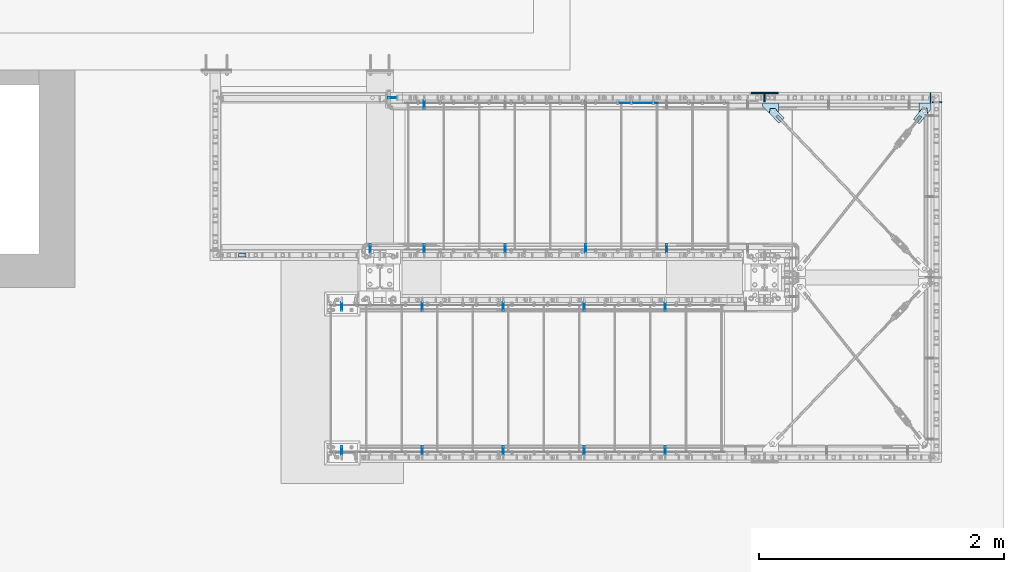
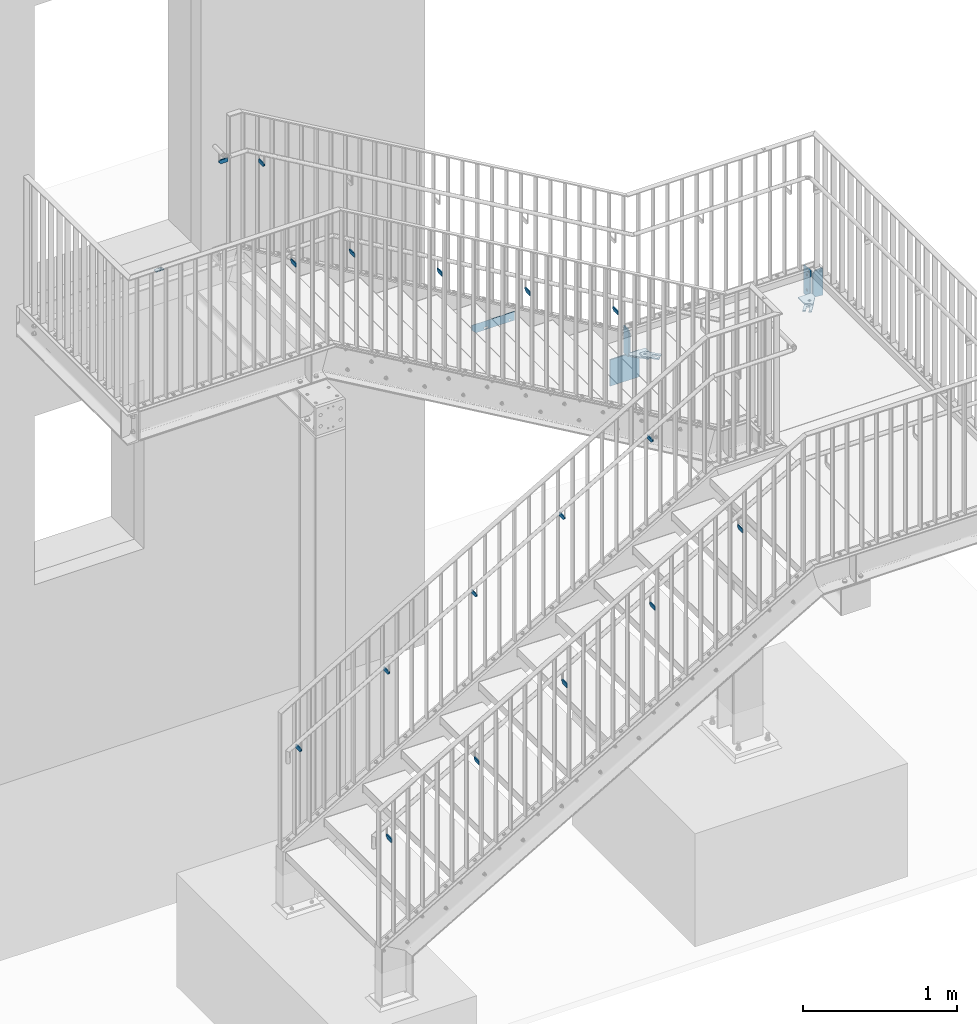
# One storey, part 26 of 145: 27 plates, 37 openings.
"""IFC2X3 building model written with IfcOpenShell, lengths in millimetres."""

import ifcopenshell
import ifcopenshell.guid

model = None  # the IFC model being written
_history = None  # IfcOwnerHistory: only IFC2X3 demands one
_inside = {}  # id of a spatial element -> (the spatial element, [elements in it])
_under = {}  # id of a project, library or spatial element -> (it, [spatial elements below it])
_declared = {}  # id of a project -> (the project, [libraries it declares])
_typed = {}  # id of a type object -> (the type object, [elements of that type])
_made_of = {}  # id of a material, layer set ... -> (it, [elements and type objects made of it])


def new_model(schema):
    """Start an empty IFC model of exactly this schema.

    Asked for "IFC4X3", IfcOpenShell would pick the latest addendum, in which some entities
    have other attributes; the version numbers below select the first issue.
    IFC2X3 requires an IfcOwnerHistory on every rooted entity: one is made here for all.
    """
    global model, _history
    if schema == "IFC4X3":
        model = ifcopenshell.file(schema_version=(4, 3, 0, 0))
    else:
        model = ifcopenshell.file(schema=schema)
    _inside.clear()
    _under.clear()
    _declared.clear()
    _typed.clear()
    _made_of.clear()
    _history = None
    if model.schema == "IFC2X3":
        org = make("IfcOrganization", Name="unknown")
        user = make(
            "IfcPersonAndOrganization",
            ThePerson=make("IfcPerson", FamilyName="unknown"),
            TheOrganization=org,
        )
        app = make(
            "IfcApplication",
            ApplicationDeveloper=org,
            Version="unknown",
            ApplicationFullName="unknown",
            ApplicationIdentifier="unknown",
        )
        _history = make(
            "IfcOwnerHistory",
            OwningUser=user,
            OwningApplication=app,
            ChangeAction="ADDED",
            CreationDate=0,
        )
    return model


def make(cls, **values):
    """One entity of the class cls with the attributes given. An attribute that is None is left unset."""
    return model.create_entity(
        cls, **{name: value for name, value in values.items() if value is not None}
    )


def entity(cls, *values):
    """Any entity or typed value of the class cls, its attributes in the order of the schema. None: left unset."""
    e = model.create_entity(cls)
    for i, value in enumerate(values):
        if value is not None:
            e[i] = value
    return e


def rooted(cls, **values):
    """An entity with a GlobalId (a new one), such as an element, a storey or a relation."""
    return make(cls, GlobalId=ifcopenshell.guid.new(), OwnerHistory=_history, **values)


def si_unit(unit_type, name, prefix=None):
    """IfcSIUnit, for example si_unit("LENGTHUNIT", "METRE", prefix="MILLI")."""
    return make("IfcSIUnit", UnitType=unit_type, Prefix=prefix, Name=name)


def converted_unit(unit_type, name, factor, base, dimensions=None, offset=None):
    """IfcConversionBasedUnit, such as the inch: factor (a typed value) times the base unit."""
    return make(
        "IfcConversionBasedUnit"
        if offset is None
        else "IfcConversionBasedUnitWithOffset",
        ConversionOffset=offset,
        Dimensions=None
        if dimensions is None
        else entity("IfcDimensionalExponents", *dimensions),
        UnitType=unit_type,
        Name=name,
        ConversionFactor=make(
            "IfcMeasureWithUnit", ValueComponent=factor, UnitComponent=base
        ),
    )


def assignment(units):
    """IfcUnitAssignment: the units of a project."""
    return None if units is None else make("IfcUnitAssignment", Units=units)


def point(xyz):
    """IfcCartesianPoint."""
    return None if xyz is None else make("IfcCartesianPoint", Coordinates=xyz)


def direction(xyz):
    """IfcDirection."""
    return None if xyz is None else make("IfcDirection", DirectionRatios=xyz)


def frame(location, z_axis=None, x_axis=None):
    """IfcAxis2Placement3D, a coordinate frame: its origin and axes. An axis left out is left unset."""
    return make(
        "IfcAxis2Placement3D",
        Location=point(location),
        Axis=direction(z_axis),
        RefDirection=direction(x_axis),
    )


def frame_2d(location, x_axis=None):
    """IfcAxis2Placement2D, a coordinate frame in the plane: its origin and x axis."""
    return make(
        "IfcAxis2Placement2D", Location=point(location), RefDirection=direction(x_axis)
    )


def origin():
    """The frame at (0, 0, 0) with its axes left unset."""
    return frame((0.0, 0.0, 0.0))


def origin_with_axes():
    """The frame at (0, 0, 0) with the z axis (0, 0, 1) and the x axis (1, 0, 0) written out."""
    return frame((0.0, 0.0, 0.0), z_axis=(0.0, 0.0, 1.0), x_axis=(1.0, 0.0, 0.0))


def origin_2d_with_axis():
    """The frame at (0, 0) in the plane with the x axis (1, 0) written out."""
    return frame_2d((0.0, 0.0), x_axis=(1.0, 0.0))


def place(relative_to, where):
    """IfcLocalPlacement: puts the frame where relative to a parent placement (None: the world)."""
    return make(
        "IfcLocalPlacement", PlacementRelTo=relative_to, RelativePlacement=where
    )


def context(
    kind, dimensions, precision=None, world=None, true_north=None, identifier=None
):
    """IfcGeometricRepresentationContext, for example the 3D "Model" context."""
    return make(
        "IfcGeometricRepresentationContext",
        ContextIdentifier=identifier,
        ContextType=kind,
        CoordinateSpaceDimension=dimensions,
        Precision=precision,
        WorldCoordinateSystem=world,
        TrueNorth=true_north,
    )


def project(units=None, contexts=None):
    """IfcProject with its units and contexts."""
    return rooted(
        "IfcProject",
        Name="project",
        RepresentationContexts=contexts,
        UnitsInContext=assignment(units),
    )


def spatial(cls, under=None, at=None, **own):
    """A site, building, storey or space (cls), placed at a placement, below another one or the project."""
    s = rooted(cls, ObjectPlacement=at, **own)
    if under is not None:
        _under.setdefault(under.id(), (under, []))[1].append(s)
    return s


def polyline(points):
    """IfcPolyline through the points."""
    return make("IfcPolyline", Points=[point(p) for p in points])


def circle_curve(where, radius):
    """IfcCircle in the frame where."""
    return make("IfcCircle", Position=where, Radius=radius)


def line_curve(start, along, magnitude):
    """IfcLine from a point along a vector."""
    return make(
        "IfcLine",
        Pnt=point(start),
        Dir=make("IfcVector", Orientation=direction(along), Magnitude=magnitude),
    )


def trimmed(basis, trim1, trim2, sense, master):
    """IfcTrimmedCurve: the piece of a basis curve between two trims."""
    return make(
        "IfcTrimmedCurve",
        BasisCurve=basis,
        Trim1=trim1,
        Trim2=trim2,
        SenseAgreement=sense,
        MasterRepresentation=master,
    )


def segment(curve, same_sense, transition):
    """IfcCompositeCurveSegment."""
    return make(
        "IfcCompositeCurveSegment",
        Transition=transition,
        SameSense=same_sense,
        ParentCurve=curve,
    )


def composite_curve(segments, self_intersect=None):
    """IfcCompositeCurve: segments joined end to end."""
    return make("IfcCompositeCurve", Segments=segments, SelfIntersect=self_intersect)


def profile(cls, at=None, kind="AREA", **sizes):
    """A parametric profile (cls). Its sizes go by their IFC names, for example OverallWidth=200.0."""
    return make(cls, ProfileType=kind, Position=at, **sizes)


def circle(**sizes):
    """IfcCircleProfileDef."""
    return profile("IfcCircleProfileDef", **sizes)


def outline(outer, holes=None, kind="AREA"):
    """IfcArbitraryClosedProfileDef: a profile drawn as a closed curve; with holes, ...WithVoids."""
    if holes is None:
        return make("IfcArbitraryClosedProfileDef", ProfileType=kind, OuterCurve=outer)
    return make(
        "IfcArbitraryProfileDefWithVoids",
        ProfileType=kind,
        OuterCurve=outer,
        InnerCurves=holes,
    )


def extrude(swept, where, along, depth):
    """IfcExtrudedAreaSolid: the profile swept, set in the frame where, extruded along a direction by depth."""
    return make(
        "IfcExtrudedAreaSolid",
        SweptArea=swept,
        Position=where,
        ExtrudedDirection=direction(along),
        Depth=depth,
    )


def shape(context_of_items, identifier, shape_type, items):
    """IfcShapeRepresentation: the items that make up one representation, for example the "Body"."""
    return make(
        "IfcShapeRepresentation",
        ContextOfItems=context_of_items,
        RepresentationIdentifier=identifier,
        RepresentationType=shape_type,
        Items=items,
    )


def material(Name=None, Category=None):
    """IfcMaterial."""
    return make("IfcMaterial", Name=Name, Category=Category)


def layer(
    of_material, thickness, ventilated=None, Name=None, Category=None, Priority=None
):
    """IfcMaterialLayer: one layer of a wall or slab, of a material (None: an air gap)."""
    return make(
        "IfcMaterialLayer",
        Material=of_material,
        LayerThickness=thickness,
        IsVentilated=ventilated,
        Name=Name,
        Category=Category,
        Priority=Priority,
    )


def layer_set(layers, Name=None):
    """IfcMaterialLayerSet."""
    return make("IfcMaterialLayerSet", MaterialLayers=layers, LayerSetName=Name)


def made_of(thing, what):
    """Note that an element or type object is made of a material, layer set ...; save() writes the relation."""
    if what is not None:
        _made_of.setdefault(what.id(), (what, []))[1].append(thing)
    return thing


def element(
    cls,
    number,
    at=None,
    inside=None,
    cuts=None,
    type_object=None,
    material=None,
    context=None,
    identifier="Body",
    shape_type=None,
    held_by="IfcProductDefinitionShape",
    body=None,
    shapes=None,
    **own,
):
    """One element of the class cls, such as IfcWall. Its Tag is "e" and its number.

    at: its placement. inside: the storey or other place that contains it. cuts: it is an
    opening in that element (IfcRelVoidsElement). A single representation is given by context,
    identifier, shape_type and body (its items); several are given by shapes. held_by: the class
    of the entity that holds the representations. save() writes the other relations.
    """
    e = rooted(cls, Tag="e%d" % number, ObjectPlacement=at, **own)
    if body is not None:
        shapes = [shape(context, identifier, shape_type, body)]
    if shapes is not None:
        e.Representation = make(held_by, Representations=shapes)
    if inside is not None:
        _inside.setdefault(inside.id(), (inside, []))[1].append(e)
    if cuts is not None:
        rooted(
            "IfcRelVoidsElement", RelatingBuildingElement=cuts, RelatedOpeningElement=e
        )
    if type_object is not None:
        _typed.setdefault(type_object.id(), (type_object, []))[1].append(e)
    return made_of(e, material)


def aggregate(whole, parts):
    """IfcRelAggregates: a whole, such as a stair, and the parts it consists of."""
    return rooted("IfcRelAggregates", RelatingObject=whole, RelatedObjects=parts)


def save(model, path):
    """Write the relations noted so far, then the file.

    IfcRelAggregates (storeys below a building ...), IfcRelContainedInSpatialStructure (elements
    in a storey), IfcRelDefinesByType, IfcRelAssociatesMaterial and IfcRelDeclares: one each for
    every whole, place, type object, material and project.
    """
    for whole, parts in _under.values():
        aggregate(whole, parts)
    for where, things in _inside.values():
        rooted(
            "IfcRelContainedInSpatialStructure",
            RelatedElements=things,
            RelatingStructure=where,
        )
    for kind, things in _typed.values():
        rooted("IfcRelDefinesByType", RelatedObjects=things, RelatingType=kind)
    for what, things in _made_of.values():
        rooted("IfcRelAssociatesMaterial", RelatedObjects=things, RelatingMaterial=what)
    for by, libraries in _declared.values():
        rooted("IfcRelDeclares", RelatingContext=by, RelatedDefinitions=libraries)
    model.write(path)


model = new_model("IFC2X3")

# Units and contexts
model_context = context("Model", 3, precision=1e-09, world=origin_with_axes())
ifc_project = project(units=[si_unit("LENGTHUNIT", "METRE", prefix="MILLI"), si_unit("AREAUNIT", "SQUARE_METRE"), si_unit("VOLUMEUNIT", "CUBIC_METRE"), converted_unit("PLANEANGLEUNIT", "DEGREE", entity("IfcPlaneAngleMeasure", 0.01745329), si_unit("PLANEANGLEUNIT", "RADIAN"), dimensions=[0, 0, 0, 0, 0, 0, 0])], contexts=[model_context])

# Site, building, storey
site_placement = place(None, origin_with_axes())
site = spatial("IfcSite", under=ifc_project, at=site_placement, Name="BZ1 Grund- und Mittelschule 85716 Unterschlei?heim", CompositionType="ELEMENT")
building_placement = place(site_placement, origin_with_axes())
building = spatial("IfcBuilding", under=site, at=building_placement, Name="Struktur 1", CompositionType="ELEMENT")
storey_placement = place(building_placement, origin_with_axes())
storey = spatial("IfcBuildingStorey", under=building, at=storey_placement, Name="Default Storey", CompositionType="ELEMENT", Elevation=0.0)

# Plate, opening
ifc_material = material(Name="S235JR")
ifc_layer_1 = layer(ifc_material, 8.0)
ifc_layer_set_1 = layer_set([ifc_layer_1], Name="S235JR")
plate_1_placement = place(None, frame((16762.545893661, -3108.002, 505.920612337), z_axis=(-1.0, 0.0, 0.0), x_axis=(0.0, -1.0, 0.0)))
plate_1 = element("IfcPlate", 1, at=plate_1_placement, inside=storey, material=ifc_layer_set_1, Name="-", ObjectType="-", context=model_context, shape_type="SweptSolid", body=[
    extrude(outline(polyline([(-34.5, -15.0), (34.5, -15.0), (34.5, 15.0), (-34.5, 15.0), (-34.5, -15.0)])), origin_with_axes(), (0.0, 0.0, 1.0), 8.0),
])
opening_1_placement = place(plate_1_placement, frame((0.0, 0.0, -0.01), z_axis=(0.0, 0.0, 1.0), x_axis=(1.0, 0.0, 0.0)))
element("IfcOpeningElement", 2, at=opening_1_placement, cuts=plate_1, ObjectType="Opening", context=model_context, shape_type="SweptSolid", body=[
    extrude(outline(polyline([(-34.5, -15.0), (-19.5, -15.0), (-34.5, 0.0), (-34.5, -15.0)])), origin(), (0.0, 0.0, 1.0), 8.02),
])

plate_2_placement = place(None, frame((16762.545893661, -1932.002, 505.920612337), z_axis=(1.0, 0.0, 0.0), x_axis=(0.0, 1.0, 0.0)))
plate_2 = element("IfcPlate", 3, at=plate_2_placement, inside=storey, material=ifc_layer_set_1, Name="-", ObjectType="-", context=model_context, shape_type="SweptSolid", body=[
    extrude(outline(polyline([(-34.5, -15.0), (34.5, -15.0), (34.5, 15.0), (-34.5, 15.0), (-34.5, -15.0)])), origin_with_axes(), (0.0, 0.0, -1.0), 8.0),
])
opening_2_placement = place(plate_2_placement, frame((-34.5, -15.0, 0.01), z_axis=(0.0, 0.0, 1.0), x_axis=(1.0, 0.0, 0.0)))
element("IfcOpeningElement", 4, at=opening_2_placement, cuts=plate_2, ObjectType="Opening", context=model_context, shape_type="SweptSolid", body=[
    extrude(outline(polyline([(0.0, 0.0), (15.0, 0.0), (0.0, 15.0), (0.0, 0.0)])), origin(), (0.0, 0.0, -1.0), 8.02),
])

plate_3_placement = place(None, frame((17422.545893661, -3108.002, 889.713715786), z_axis=(-1.0, 0.0, 0.0), x_axis=(0.0, -1.0, 0.0)))
plate_3 = element("IfcPlate", 5, at=plate_3_placement, inside=storey, material=ifc_layer_set_1, Name="-", ObjectType="-", context=model_context, shape_type="SweptSolid", body=[
    extrude(outline(polyline([(-34.5, -15.0), (34.5, -15.0), (34.5, 15.0), (-34.5, 15.0), (-34.5, -15.0)])), origin_with_axes(), (0.0, 0.0, 1.0), 8.0),
])
opening_3_placement = place(plate_3_placement, frame((0.0, 0.0, -0.01), z_axis=(0.0, 0.0, 1.0), x_axis=(1.0, 0.0, 0.0)))
element("IfcOpeningElement", 6, at=opening_3_placement, cuts=plate_3, ObjectType="Opening", context=model_context, shape_type="SweptSolid", body=[
    extrude(outline(polyline([(-34.5, -15.0), (-19.5, -15.0), (-34.5, 0.0), (-34.5, -15.0)])), origin(), (0.0, 0.0, 1.0), 8.02),
])

plate_4_placement = place(None, frame((17422.545893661, -1932.002, 889.713715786), z_axis=(1.0, 0.0, 0.0), x_axis=(0.0, 1.0, 0.0)))
plate_4 = element("IfcPlate", 7, at=plate_4_placement, inside=storey, material=ifc_layer_set_1, Name="-", ObjectType="-", context=model_context, shape_type="SweptSolid", body=[
    extrude(outline(polyline([(-34.5, -15.0), (34.5, -15.0), (34.5, 15.0), (-34.5, 15.0), (-34.5, -15.0)])), origin_with_axes(), (0.0, 0.0, -1.0), 8.0),
])
opening_4_placement = place(plate_4_placement, frame((-34.5, -15.0, 0.01), z_axis=(0.0, 0.0, 1.0), x_axis=(1.0, 0.0, 0.0)))
element("IfcOpeningElement", 8, at=opening_4_placement, cuts=plate_4, ObjectType="Opening", context=model_context, shape_type="SweptSolid", body=[
    extrude(outline(polyline([(0.0, 0.0), (15.0, 0.0), (0.0, 15.0), (0.0, 0.0)])), origin(), (0.0, 0.0, -1.0), 8.02),
])

plate_5_placement = place(None, frame((18082.545893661, -1932.002, 1273.506819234), z_axis=(1.0, 0.0, 0.0), x_axis=(0.0, 1.0, 0.0)))
plate_5 = element("IfcPlate", 9, at=plate_5_placement, inside=storey, material=ifc_layer_set_1, Name="-", ObjectType="-", context=model_context, shape_type="SweptSolid", body=[
    extrude(outline(polyline([(-34.5, -15.0), (34.5, -15.0), (34.5, 15.0), (-34.5, 15.0), (-34.5, -15.0)])), origin_with_axes(), (0.0, 0.0, -1.0), 8.0),
])
opening_5_placement = place(plate_5_placement, frame((-34.5, -15.0, 0.01), z_axis=(0.0, 0.0, 1.0), x_axis=(1.0, 0.0, 0.0)))
element("IfcOpeningElement", 10, at=opening_5_placement, cuts=plate_5, ObjectType="Opening", context=model_context, shape_type="SweptSolid", body=[
    extrude(outline(polyline([(0.0, 0.0), (15.0, 0.0), (0.0, 15.0), (0.0, 0.0)])), origin(), (0.0, 0.0, -1.0), 8.02),
])

plate_6_placement = place(None, frame((18082.545893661, -3108.002, 1273.506819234), z_axis=(-1.0, 0.0, 0.0), x_axis=(0.0, -1.0, 0.0)))
plate_6 = element("IfcPlate", 11, at=plate_6_placement, inside=storey, material=ifc_layer_set_1, Name="-", ObjectType="-", context=model_context, shape_type="SweptSolid", body=[
    extrude(outline(polyline([(-34.5, -15.0), (34.5, -15.0), (34.5, 15.0), (-34.5, 15.0), (-34.5, -15.0)])), origin_with_axes(), (0.0, 0.0, 1.0), 8.0),
])
opening_6_placement = place(plate_6_placement, frame((0.0, 0.0, -0.01), z_axis=(0.0, 0.0, 1.0), x_axis=(1.0, 0.0, 0.0)))
element("IfcOpeningElement", 12, at=opening_6_placement, cuts=plate_6, ObjectType="Opening", context=model_context, shape_type="SweptSolid", body=[
    extrude(outline(polyline([(-34.5, -15.0), (-19.5, -15.0), (-34.5, 0.0), (-34.5, -15.0)])), origin(), (0.0, 0.0, 1.0), 8.02),
])

plate_7_placement = place(None, frame((18742.545893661, -3108.002, 1657.299922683), z_axis=(-1.0, 0.0, 0.0), x_axis=(0.0, -1.0, 0.0)))
plate_7 = element("IfcPlate", 13, at=plate_7_placement, inside=storey, material=ifc_layer_set_1, Name="-", ObjectType="-", context=model_context, shape_type="SweptSolid", body=[
    extrude(outline(polyline([(-34.5, -15.0), (34.5, -15.0), (34.5, 15.0), (-34.5, 15.0), (-34.5, -15.0)])), origin_with_axes(), (0.0, 0.0, 1.0), 8.0),
])
opening_7_placement = place(plate_7_placement, frame((0.0, 0.0, -0.01), z_axis=(0.0, 0.0, 1.0), x_axis=(1.0, 0.0, 0.0)))
element("IfcOpeningElement", 14, at=opening_7_placement, cuts=plate_7, ObjectType="Opening", context=model_context, shape_type="SweptSolid", body=[
    extrude(outline(polyline([(-34.5, -15.0), (-19.5, -15.0), (-34.5, 0.0), (-34.5, -15.0)])), origin(), (0.0, 0.0, 1.0), 8.02),
])

plate_8_placement = place(None, frame((18742.545893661, -1932.002, 1657.299922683), z_axis=(1.0, 0.0, 0.0), x_axis=(0.0, 1.0, 0.0)))
plate_8 = element("IfcPlate", 15, at=plate_8_placement, inside=storey, material=ifc_layer_set_1, Name="-", ObjectType="-", context=model_context, shape_type="SweptSolid", body=[
    extrude(outline(polyline([(-34.5, -15.0), (34.5, -15.0), (34.5, 15.0), (-34.5, 15.0), (-34.5, -15.0)])), origin_with_axes(), (0.0, 0.0, -1.0), 8.0),
])
opening_8_placement = place(plate_8_placement, frame((-34.5, -15.0, 0.01), z_axis=(0.0, 0.0, 1.0), x_axis=(1.0, 0.0, 0.0)))
element("IfcOpeningElement", 16, at=opening_8_placement, cuts=plate_8, ObjectType="Opening", context=model_context, shape_type="SweptSolid", body=[
    extrude(outline(polyline([(0.0, 0.0), (15.0, 0.0), (0.0, 15.0), (0.0, 0.0)])), origin(), (0.0, 0.0, -1.0), 8.02),
])

plate_9_placement = place(None, frame((19402.54589366, -1932.002, 2041.093026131), z_axis=(1.0, 0.0, 0.0), x_axis=(0.0, 1.0, 0.0)))
plate_9 = element("IfcPlate", 17, at=plate_9_placement, inside=storey, material=ifc_layer_set_1, Name="-", ObjectType="-", context=model_context, shape_type="SweptSolid", body=[
    extrude(outline(polyline([(-34.5, -15.0), (34.5, -15.0), (34.5, 15.0), (-34.5, 15.0), (-34.5, -15.0)])), origin_with_axes(), (0.0, 0.0, -1.0), 8.0),
])
opening_9_placement = place(plate_9_placement, frame((-34.5, -15.0, 0.01), z_axis=(0.0, 0.0, 1.0), x_axis=(1.0, 0.0, 0.0)))
element("IfcOpeningElement", 18, at=opening_9_placement, cuts=plate_9, ObjectType="Opening", context=model_context, shape_type="SweptSolid", body=[
    extrude(outline(polyline([(0.0, 0.0), (15.0, 0.0), (0.0, 15.0), (0.0, 0.0)])), origin(), (0.0, 0.0, -1.0), 8.02),
])

plate_10_placement = place(None, frame((19402.54589366, -3108.002, 2041.093026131), z_axis=(-1.0, 0.0, 0.0), x_axis=(0.0, -1.0, 0.0)))
plate_10 = element("IfcPlate", 19, at=plate_10_placement, inside=storey, material=ifc_layer_set_1, Name="-", ObjectType="-", context=model_context, shape_type="SweptSolid", body=[
    extrude(outline(polyline([(-34.5, -15.0), (34.5, -15.0), (34.5, 15.0), (-34.5, 15.0), (-34.5, -15.0)])), origin_with_axes(), (0.0, 0.0, 1.0), 8.0),
])
opening_10_placement = place(plate_10_placement, frame((0.0, 0.0, -0.01), z_axis=(0.0, 0.0, 1.0), x_axis=(1.0, 0.0, 0.0)))
element("IfcOpeningElement", 20, at=opening_10_placement, cuts=plate_10, ObjectType="Opening", context=model_context, shape_type="SweptSolid", body=[
    extrude(outline(polyline([(-34.5, -15.0), (-19.5, -15.0), (-34.5, 0.0), (-34.5, -15.0)])), origin(), (0.0, 0.0, 1.0), 8.02),
])

plate_11_placement = place(None, frame((17429.141490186, -282.006106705, 3919.353213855), z_axis=(1.0, 0.0, 0.0), x_axis=(0.0, 1.0, 0.0)))
plate_11 = element("IfcPlate", 21, at=plate_11_placement, inside=storey, material=ifc_layer_set_1, Name="-", ObjectType="-", context=model_context, shape_type="SweptSolid", body=[
    extrude(outline(polyline([(-34.5, -15.0), (34.5, -15.0), (34.5, 15.0), (-34.5, 15.0), (-34.5, -15.0)])), origin_with_axes(), (0.0, 0.0, 1.0), 8.0),
])
opening_11_placement = place(plate_11_placement, frame((0.0, 0.0, -0.01), z_axis=(0.0, 0.0, 1.0), x_axis=(1.0, 0.0, 0.0)))
element("IfcOpeningElement", 22, at=opening_11_placement, cuts=plate_11, ObjectType="Opening", context=model_context, shape_type="SweptSolid", body=[
    extrude(outline(polyline([(-34.5, -15.0), (-19.5, -15.0), (-34.5, 0.0), (-34.5, -15.0)])), origin(), (0.0, 0.0, 1.0), 8.02),
])

plate_12_placement = place(None, frame((17429.141490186, -1458.006106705, 3919.353213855), z_axis=(-1.0, 0.0, 0.0), x_axis=(0.0, -1.0, 0.0)))
plate_12 = element("IfcPlate", 23, at=plate_12_placement, inside=storey, material=ifc_layer_set_1, Name="-", ObjectType="-", context=model_context, shape_type="SweptSolid", body=[
    extrude(outline(polyline([(-34.5, -15.0), (34.5, -15.0), (34.5, 15.0), (-34.5, 15.0), (-34.5, -15.0)])), origin_with_axes(), (0.0, 0.0, -1.0), 8.0),
])
opening_12_placement = place(plate_12_placement, frame((-34.5, -15.0, 0.01), z_axis=(0.0, 0.0, 1.0), x_axis=(1.0, 0.0, 0.0)))
element("IfcOpeningElement", 24, at=opening_12_placement, cuts=plate_12, ObjectType="Opening", context=model_context, shape_type="SweptSolid", body=[
    extrude(outline(polyline([(0.0, 0.0), (15.0, 0.0), (0.0, 15.0), (0.0, 0.0)])), origin(), (0.0, 0.0, -1.0), 8.02),
])

plate_13_placement = place(None, frame((18089.141490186, -1458.006106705, 3535.560110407), z_axis=(-1.0, 0.0, 0.0), x_axis=(0.0, -1.0, 0.0)))
plate_13 = element("IfcPlate", 25, at=plate_13_placement, inside=storey, material=ifc_layer_set_1, Name="-", ObjectType="-", context=model_context, shape_type="SweptSolid", body=[
    extrude(outline(polyline([(-34.5, -15.0), (34.5, -15.0), (34.5, 15.0), (-34.5, 15.0), (-34.5, -15.0)])), origin_with_axes(), (0.0, 0.0, -1.0), 8.0),
])
opening_13_placement = place(plate_13_placement, frame((-34.5, -15.0, 0.01), z_axis=(0.0, 0.0, 1.0), x_axis=(1.0, 0.0, 0.0)))
element("IfcOpeningElement", 26, at=opening_13_placement, cuts=plate_13, ObjectType="Opening", context=model_context, shape_type="SweptSolid", body=[
    extrude(outline(polyline([(0.0, 0.0), (15.0, 0.0), (0.0, 15.0), (0.0, 0.0)])), origin(), (0.0, 0.0, -1.0), 8.02),
])

plate_14_placement = place(None, frame((18749.141490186, -1458.006106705, 3151.767006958), z_axis=(-1.0, 0.0, 0.0), x_axis=(0.0, -1.0, 0.0)))
plate_14 = element("IfcPlate", 27, at=plate_14_placement, inside=storey, material=ifc_layer_set_1, Name="-", ObjectType="-", context=model_context, shape_type="SweptSolid", body=[
    extrude(outline(polyline([(-34.5, -15.0), (34.5, -15.0), (34.5, 15.0), (-34.5, 15.0), (-34.5, -15.0)])), origin_with_axes(), (0.0, 0.0, -1.0), 8.0),
])
opening_14_placement = place(plate_14_placement, frame((-34.5, -15.0, 0.01), z_axis=(0.0, 0.0, 1.0), x_axis=(1.0, 0.0, 0.0)))
element("IfcOpeningElement", 28, at=opening_14_placement, cuts=plate_14, ObjectType="Opening", context=model_context, shape_type="SweptSolid", body=[
    extrude(outline(polyline([(0.0, 0.0), (15.0, 0.0), (0.0, 15.0), (0.0, 0.0)])), origin(), (0.0, 0.0, -1.0), 8.02),
])

plate_15_placement = place(None, frame((19409.141490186, -1458.006106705, 2767.97390351), z_axis=(-1.0, 0.0, 0.0), x_axis=(0.0, -1.0, 0.0)))
plate_15 = element("IfcPlate", 29, at=plate_15_placement, inside=storey, material=ifc_layer_set_1, Name="-", ObjectType="-", context=model_context, shape_type="SweptSolid", body=[
    extrude(outline(polyline([(-34.5, -15.0), (34.5, -15.0), (34.5, 15.0), (-34.5, 15.0), (-34.5, -15.0)])), origin_with_axes(), (0.0, 0.0, -1.0), 8.0),
])
opening_15_placement = place(plate_15_placement, frame((-34.5, -15.0, 0.01), z_axis=(0.0, 0.0, 1.0), x_axis=(1.0, 0.0, 0.0)))
element("IfcOpeningElement", 30, at=opening_15_placement, cuts=plate_15, ObjectType="Opening", context=model_context, shape_type="SweptSolid", body=[
    extrude(outline(polyline([(0.0, 0.0), (15.0, 0.0), (0.0, 15.0), (0.0, 0.0)])), origin(), (0.0, 0.0, -1.0), 8.02),
])

plate_16_placement = place(None, frame((16997.141490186, -1458.002, 3995.0), z_axis=(-1.0, 0.0, 0.0), x_axis=(0.0, -1.0, 0.0)))
plate_16 = element("IfcPlate", 31, at=plate_16_placement, inside=storey, material=ifc_layer_set_1, Name="-", ObjectType="-", context=model_context, shape_type="SweptSolid", body=[
    extrude(outline(polyline([(-34.5, -15.0), (34.5, -15.0), (34.5, 15.0), (-34.5, 15.0), (-34.5, -15.0)])), origin_with_axes(), (0.0, 0.0, 1.0), 8.0),
])
opening_16_placement = place(plate_16_placement, frame((0.0, 0.0, -0.01), z_axis=(0.0, 0.0, 1.0), x_axis=(1.0, 0.0, 0.0)))
element("IfcOpeningElement", 32, at=opening_16_placement, cuts=plate_16, ObjectType="Opening", context=model_context, shape_type="SweptSolid", body=[
    extrude(outline(polyline([(-34.5, -15.0), (-19.5, -15.0), (-34.5, 0.0), (-34.5, -15.0)])), origin(), (0.0, 0.0, 1.0), 8.02),
])

plate_17_placement = place(None, frame((17174.641490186, -223.502, 3995.0), z_axis=(0.0, -1.0, 0.0), x_axis=(1.0, 0.0, 0.0)))
plate_17 = element("IfcPlate", 33, at=plate_17_placement, inside=storey, material=ifc_layer_set_1, Name="-", ObjectType="-", context=model_context, shape_type="SweptSolid", body=[
    extrude(outline(polyline([(-34.5, -15.0), (34.5, -15.0), (34.5, 15.0), (-34.5, 15.0), (-34.5, -15.0)])), origin_with_axes(), (0.0, 0.0, 1.0), 8.0),
])
opening_17_placement = place(plate_17_placement, frame((0.0, 0.0, -0.01), z_axis=(0.0, 0.0, 1.0), x_axis=(1.0, 0.0, 0.0)))
element("IfcOpeningElement", 34, at=opening_17_placement, cuts=plate_17, ObjectType="Opening", context=model_context, shape_type="SweptSolid", body=[
    extrude(outline(polyline([(-34.5, -15.0), (-19.5, -15.0), (-34.5, 0.0), (-34.5, -15.0)])), origin(), (0.0, 0.0, 1.0), 8.02),
])

# Plate, openings
ifc_layer_2 = layer(ifc_material, 10.0)
ifc_layer_set_2 = layer_set([ifc_layer_2], Name="S235JR")
plate_18_placement = place(None, frame((21570.84472732, -227.502, 1493.6363644), z_axis=(-1.0, 0.0, 0.0), x_axis=(0.0, -1.0, 0.0)))
plate_18 = element("IfcPlate", 35, at=plate_18_placement, inside=storey, material=ifc_layer_set_2, Name="-", ObjectType="-", context=model_context, shape_type="SweptSolid", body=[
    extrude(outline(polyline([(-42.5, -113.0), (42.5, -113.0), (42.5, 113.0), (-42.5, 113.0), (-42.5, -113.0)])), origin_with_axes(), (0.0, 0.0, 1.0), 10.0),
])
opening_18_placement = place(plate_18_placement, frame((20.0, 94.0, -0.5), z_axis=(0.0, 0.0, 1.0), x_axis=(0.0, 1.0, 0.0)))
element("IfcOpeningElement", 36, at=opening_18_placement, cuts=plate_18, ObjectType="Opening", context=model_context, shape_type="SweptSolid", body=[
    extrude(circle(Radius=6.001, at=origin_2d_with_axis()), origin(), (0.0, 0.0, 1.0), 11.0),
])
opening_19_placement = place(plate_18_placement, frame((20.0, -94.0, -0.5), z_axis=(0.0, 0.0, 1.0), x_axis=(0.0, 1.0, 0.0)))
element("IfcOpeningElement", 37, at=opening_19_placement, cuts=plate_18, ObjectType="Opening", context=model_context, shape_type="SweptSolid", body=[
    extrude(circle(Radius=6.001, at=origin_2d_with_axis()), origin(), (0.0, 0.0, 1.0), 11.0),
])
opening_20_placement = place(plate_18_placement, frame((0.0, 0.0, -0.5), z_axis=(0.0, 0.0, 1.0), x_axis=(1.0, 0.0, 0.0)))
element("IfcOpeningElement", 38, at=opening_20_placement, cuts=plate_18, ObjectType="Opening", context=model_context, shape_type="SweptSolid", body=[
    extrude(circle(Radius=9.001, at=frame_2d((0.0, 60.0), x_axis=(1.0, 0.0))), origin(), (0.0, 0.0, 1.0), 11.0),
])
opening_21_placement = place(plate_18_placement, frame((0.0, 0.0, -0.5), z_axis=(0.0, 0.0, 1.0), x_axis=(1.0, 0.0, 0.0)))
element("IfcOpeningElement", 39, at=opening_21_placement, cuts=plate_18, ObjectType="Opening", context=model_context, shape_type="SweptSolid", body=[
    extrude(circle(Radius=9.001, at=frame_2d((0.0, -60.0), x_axis=(1.0, 0.0))), origin(), (0.0, 0.0, 1.0), 11.0),
])

plate_19_placement = place(None, frame((21655.34472732, -270.002, 1384.781098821), z_axis=(0.0, 1.0, 0.0), x_axis=(-0.996815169, 0.0, 0.079746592)))
plate_19 = element("IfcPlate", 40, at=plate_19_placement, inside=storey, material=ifc_layer_set_2, Name="Stiffener#1", ObjectType="Stiffener#1", context=model_context, shape_type="SweptSolid", body=[
    extrude(outline(polyline([(0.0, 0.0), (75.239625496, 0.0), (91.644322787, 205.05517107), (17.361672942, 217.017159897), (0.0, 0.0)])), origin_with_axes(), (0.0, 0.0, 1.0), 10.0),
])
opening_22_placement = place(plate_19_placement, frame((0.0, 0.0, -0.01), z_axis=(0.0, 0.0, 1.0), x_axis=(1.0, 0.0, 0.0)))
element("IfcOpeningElement", 41, at=opening_22_placement, cuts=plate_19, ObjectType="Opening", context=model_context, shape_type="SweptSolid", body=[
    extrude(outline(composite_curve([segment(trimmed(line_curve((91.644322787, 205.05517107), (-0.987280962, 0.158985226), 15.0), [point((91.644322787, 205.05517107))], [point((76.835108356, 207.439949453))], True, "CARTESIAN"), True, "CONTINUOUS"), segment(trimmed(circle_curve(frame_2d((91.644322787, 205.05517107), x_axis=(1.0, 0.0)), 15.0), [point((76.835108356, 207.439949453))], [point((90.448123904, 190.102943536))], True, "CARTESIAN"), True, "CONTINUOUS"), segment(trimmed(line_curve((90.448123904, 190.102943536), (0.079746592, 0.996815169), 15.0), [point((90.448123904, 190.102943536))], [point((91.644322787, 205.05517107))], True, "CARTESIAN"), True, "CONTINUOUS")], self_intersect=False)), origin(), (0.0, 0.0, 1.0), 10.02),
])
opening_23_placement = place(plate_19_placement, frame((0.0, 0.0, -0.01), z_axis=(0.0, 0.0, 1.0), x_axis=(1.0, 0.0, 0.0)))
element("IfcOpeningElement", 42, at=opening_23_placement, cuts=plate_19, ObjectType="Opening", context=model_context, shape_type="SweptSolid", body=[
    extrude(outline(composite_curve([segment(trimmed(line_curve((75.239625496, 0.0), (0.079746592, 0.996815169), 15.0), [point((75.239625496, 0.0))], [point((76.435824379, 14.952227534))], True, "CARTESIAN"), True, "CONTINUOUS"), segment(trimmed(circle_curve(frame_2d((75.239625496, 0.0), x_axis=(1.0, 0.0)), 15.0), [point((76.435824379, 14.952227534))], [point((60.239625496, 0.0))], True, "CARTESIAN"), True, "CONTINUOUS"), segment(trimmed(line_curve((60.239625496, 0.0), (1.0, 0.0), 15.0), [point((60.239625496, 0.0))], [point((75.239625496, 0.0))], True, "CARTESIAN"), True, "CONTINUOUS")], self_intersect=False)), origin(), (0.0, 0.0, 1.0), 10.02),
])

# Plate, opening
ifc_layer_3 = layer(ifc_material, 5.0)
ifc_layer_set_3 = layer_set([ifc_layer_3], Name="S235JR")
plate_20_placement = place(None, frame((15949.141490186, -1512.502, 4337.0000004), z_axis=(0.0, 0.0, 1.0), x_axis=(0.0, -1.0, 0.0)))
plate_20 = element("IfcPlate", 43, at=plate_20_placement, inside=storey, material=ifc_layer_set_3, Name="-", ObjectType="-", context=model_context, shape_type="SweptSolid", body=[
    extrude(outline(polyline([(-15.0, -30.0), (15.0, -30.0), (15.0, 30.0), (-15.0, 30.0), (-15.0, -30.0)])), origin_with_axes(), (0.0, 0.0, 1.0), 5.0),
])
opening_24_placement = place(plate_20_placement, frame((0.0, 15.0, -0.5), z_axis=(0.0, 0.0, 1.0), x_axis=(1.0, 0.0, 0.0)))
element("IfcOpeningElement", 44, at=opening_24_placement, cuts=plate_20, ObjectType="Opening", context=model_context, shape_type="SweptSolid", body=[
    extrude(circle(Radius=4.001, at=origin_2d_with_axis()), origin(), (0.0, 0.0, 1.0), 6.0),
])

# Plate, openings
plate_21_placement = place(None, frame((20372.11487547, -394.513116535, 1433.6363644), z_axis=(0.0, 0.0, 1.0), x_axis=(-0.692926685, 0.721008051, 0.0)))
plate_21 = element("IfcPlate", 45, at=plate_21_placement, inside=storey, material=ifc_layer_set_2, Name="-", ObjectType="-", context=model_context, shape_type="SweptSolid", body=[
    extrude(outline(polyline([(0.0, 0.0), (140.0, 0.0), (140.0, 60.0), (1e-09, 60.000000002), (1e-09, 40.5), (55.000000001, 40.499999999), (55.0, 19.499999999), (0.0, 19.5), (0.0, 0.0)])), origin_with_axes(), (0.0, 0.0, 1.0), 10.0),
])
opening_25_placement = place(plate_21_placement, frame((0.0, 0.0, -0.01), z_axis=(0.0, 0.0, 1.0), x_axis=(1.0, 0.0, 0.0)))
element("IfcOpeningElement", 46, at=opening_25_placement, cuts=plate_21, ObjectType="Opening", context=model_context, shape_type="SweptSolid", body=[
    extrude(outline(composite_curve([segment(trimmed(line_curve((140.0, 0.0), (0.0, 1.0), 30.0), [point((140.0, 0.0))], [point((140.0, 30.0))], True, "CARTESIAN"), True, "CONTINUOUS"), segment(trimmed(circle_curve(frame_2d((110.0, 30.0), x_axis=(-1.0, 0.0)), 30.0), [point((140.0, 30.0))], [point((110.0, 0.0))], False, "CARTESIAN"), True, "CONTINUOUS"), segment(trimmed(line_curve((110.0, 0.0), (1.0, 0.0), 30.0), [point((110.0, 0.0))], [point((140.0, 0.0))], True, "CARTESIAN"), True, "CONTINUOUS")], self_intersect=False)), origin(), (0.0, 0.0, 1.0), 10.02),
])
opening_26_placement = place(plate_21_placement, frame((0.0, 0.0, -0.01), z_axis=(0.0, 0.0, 1.0), x_axis=(1.0, 0.0, 0.0)))
element("IfcOpeningElement", 47, at=opening_26_placement, cuts=plate_21, ObjectType="Opening", context=model_context, shape_type="SweptSolid", body=[
    extrude(outline(composite_curve([segment(trimmed(line_curve((140.0, 60.0), (-1.0, 0.0), 30.0), [point((140.0, 60.0))], [point((110.0, 60.0))], True, "CARTESIAN"), True, "CONTINUOUS"), segment(trimmed(circle_curve(frame_2d((110.0, 30.0), x_axis=(-1.0, 0.0)), 30.0), [point((110.0, 60.0))], [point((140.0, 30.0))], False, "CARTESIAN"), True, "CONTINUOUS"), segment(trimmed(line_curve((140.0, 30.0), (0.0, 1.0), 30.0), [point((140.0, 30.0))], [point((140.0, 60.0))], True, "CARTESIAN"), True, "CONTINUOUS")], self_intersect=False)), origin(), (0.0, 0.0, 1.0), 10.02),
])
opening_27_placement = place(plate_21_placement, frame((105.0, 29.999999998, -0.5), z_axis=(0.0, 0.0, 1.0), x_axis=(-1.0, 0.0, 0.0)))
element("IfcOpeningElement", 48, at=opening_27_placement, cuts=plate_21, ObjectType="Opening", context=model_context, shape_type="SweptSolid", body=[
    extrude(circle(Radius=9.001, at=origin_2d_with_axis()), origin(), (0.0, 0.0, 1.0), 11.0),
])

# Plate, opening
plate_22_placement = place(None, frame((20202.757632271, -375.264143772, 1433.6363644), z_axis=(0.0, 0.0, -1.0), x_axis=(0.132269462, 0.991213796, 0.0)))
plate_22 = element("IfcPlate", 49, at=plate_22_placement, inside=storey, material=ifc_layer_set_2, Name="-", ObjectType="-", context=model_context, shape_type="SweptSolid", body=[
    extrude(outline(polyline([(77.988714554, -19.635673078), (103.127337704, -22.990218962), (120.322367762, 105.867574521), (46.932350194, 115.660878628), (0.0, 78.279673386), (77.988714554, -19.635673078)])), origin_with_axes(), (0.0, 0.0, 1.0), 10.0),
])
opening_28_placement = place(plate_22_placement, frame((45.271878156, 69.593071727, 10.5), z_axis=(0.0, 0.0, -1.0), x_axis=(-0.623020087, 0.782205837, 0.0)))
element("IfcOpeningElement", 50, at=opening_28_placement, cuts=plate_22, ObjectType="Opening", context=model_context, shape_type="SweptSolid", body=[
    extrude(circle(Radius=9.001, at=origin_2d_with_axis()), origin(), (0.0, 0.0, 1.0), 11.0),
])

# Plate
plate_23_placement = place(None, frame((20210.84472732, -195.002, 1263.636364), z_axis=(0.0, -1.0, 0.0), x_axis=(1.0, 0.0, 0.0)))
element("IfcPlate", 51, at=plate_23_placement, inside=storey, material=ifc_layer_set_2, Name="-", ObjectType="-", context=model_context, shape_type="SweptSolid", body=[
    extrude(outline(polyline([(-110.0, -105.0), (110.0, -105.0), (110.0, 105.0), (-110.0, 105.0), (-110.0, -105.0)])), origin_with_axes(), (0.0, 0.0, -1.0), 10.0),
])

# Plate, openings
plate_24_placement = place(None, frame((20215.84472732, -185.502, 1384.781098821), z_axis=(-1.0, 0.0, 0.0), x_axis=(0.0, -0.996815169, 0.079746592)))
plate_24 = element("IfcPlate", 52, at=plate_24_placement, inside=storey, material=ifc_layer_set_2, Name="Stiffener#1", ObjectType="Stiffener#1", context=model_context, shape_type="SweptSolid", body=[
    extrude(outline(polyline([(0.0, 0.0), (75.239625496, 0.0), (91.644322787, 205.05517107), (17.361672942, 217.017159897), (0.0, 0.0)])), origin_with_axes(), (0.0, 0.0, 1.0), 10.0),
])
opening_29_placement = place(plate_24_placement, frame((0.0, 0.0, -0.01), z_axis=(0.0, 0.0, 1.0), x_axis=(1.0, 0.0, 0.0)))
element("IfcOpeningElement", 53, at=opening_29_placement, cuts=plate_24, ObjectType="Opening", context=model_context, shape_type="SweptSolid", body=[
    extrude(outline(composite_curve([segment(trimmed(line_curve((91.644322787, 205.05517107), (-0.987280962, 0.158985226), 15.0), [point((91.644322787, 205.05517107))], [point((76.835108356, 207.439949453))], True, "CARTESIAN"), True, "CONTINUOUS"), segment(trimmed(circle_curve(frame_2d((91.644322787, 205.05517107), x_axis=(1.0, 0.0)), 15.0), [point((76.835108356, 207.439949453))], [point((90.448123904, 190.102943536))], True, "CARTESIAN"), True, "CONTINUOUS"), segment(trimmed(line_curve((90.448123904, 190.102943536), (0.079746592, 0.996815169), 15.0), [point((90.448123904, 190.102943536))], [point((91.644322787, 205.05517107))], True, "CARTESIAN"), True, "CONTINUOUS")], self_intersect=False)), origin(), (0.0, 0.0, 1.0), 10.02),
])
opening_30_placement = place(plate_24_placement, frame((0.0, 0.0, -0.01), z_axis=(0.0, 0.0, 1.0), x_axis=(1.0, 0.0, 0.0)))
element("IfcOpeningElement", 54, at=opening_30_placement, cuts=plate_24, ObjectType="Opening", context=model_context, shape_type="SweptSolid", body=[
    extrude(outline(composite_curve([segment(trimmed(line_curve((75.239625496, 0.0), (0.079746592, 0.996815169), 15.0), [point((75.239625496, 0.0))], [point((76.435824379, 14.952227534))], True, "CARTESIAN"), True, "CONTINUOUS"), segment(trimmed(circle_curve(frame_2d((75.239625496, 0.0), x_axis=(1.0, 0.0)), 15.0), [point((76.435824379, 14.952227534))], [point((60.239625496, 0.0))], True, "CARTESIAN"), True, "CONTINUOUS"), segment(trimmed(line_curve((60.239625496, 0.0), (1.0, 0.0), 15.0), [point((60.239625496, 0.0))], [point((75.239625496, 0.0))], True, "CARTESIAN"), True, "CONTINUOUS")], self_intersect=False)), origin(), (0.0, 0.0, 1.0), 10.02),
])

ifc_layer_4 = layer(ifc_material, 3.0)
ifc_layer_set_4 = layer_set([ifc_layer_4], Name="S235JR")
plate_25_placement = place(None, frame((19177.1419848, -273.002, 2034.545454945), z_axis=(0.0, 1.0, 0.0), x_axis=(0.0, 0.0, -1.0)))
plate_25 = element("IfcPlate", 55, at=plate_25_placement, inside=storey, material=ifc_layer_set_4, Name="-", ObjectType="-", context=model_context, shape_type="SweptSolid", body=[
    extrude(outline(polyline([(-35.0, -160.0), (35.0, -160.0), (35.0, 160.0), (-35.0, 160.0), (-35.0, -160.0)])), origin_with_axes(), (0.0, 0.0, 1.0), 3.0),
])
opening_31_placement = place(plate_25_placement, frame((0.0, 7.5, -0.001), z_axis=(0.0, 0.0, 1.0), x_axis=(1.0, 0.0, 0.0)))
element("IfcOpeningElement", 56, at=opening_31_placement, cuts=plate_25, ObjectType="Opening", context=model_context, shape_type="SweptSolid", body=[
    extrude(outline(polyline([(5.0, 152.5), (35.0, 122.5), (35.0, 152.5), (5.0, 152.5)])), origin(), (0.0, 0.0, 1.0), 3.002),
])
opening_32_placement = place(plate_25_placement, frame((20.0, 55.0, 3.5), z_axis=(0.0, 0.0, -1.0), x_axis=(-1.0, 0.0, 0.0)))
element("IfcOpeningElement", 57, at=opening_32_placement, cuts=plate_25, ObjectType="Opening", context=model_context, shape_type="SweptSolid", body=[
    extrude(outline(composite_curve([segment(trimmed(line_curve((6.501, -9.5), (0.0, 1.0), 19.0), [point((6.501, -9.5))], [point((6.501, 9.5))], True, "CARTESIAN"), True, "CONTINUOUS"), segment(trimmed(circle_curve(frame_2d((0.0, 9.5), x_axis=(1.0, 0.0)), 6.501), [point((6.501, 9.5))], [point((-6.501, 9.5))], True, "CARTESIAN"), True, "CONTINUOUS"), segment(trimmed(line_curve((-6.501, 9.5), (0.0, -1.0), 19.0), [point((-6.501, 9.5))], [point((-6.501, -9.5))], True, "CARTESIAN"), True, "CONTINUOUS"), segment(trimmed(circle_curve(frame_2d((0.0, -9.5), x_axis=(1.0, 0.0)), 6.501), [point((-6.501, -9.5))], [point((6.501, -9.5))], True, "CARTESIAN"), True, "CONTINUOUS")], self_intersect=False)), origin(), (0.0, 0.0, 1.0), 4.0),
])
opening_33_placement = place(plate_25_placement, frame((20.0, -125.0, 3.5), z_axis=(0.0, 0.0, -1.0), x_axis=(-1.0, 0.0, 0.0)))
element("IfcOpeningElement", 58, at=opening_33_placement, cuts=plate_25, ObjectType="Opening", context=model_context, shape_type="SweptSolid", body=[
    extrude(circle(Radius=6.501, at=origin_2d_with_axis()), origin(), (0.0, 0.0, 1.0), 4.0),
])

plate_26_placement = place(None, frame((21473.463522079, -440.417287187, 1413.6363644), z_axis=(0.0, 0.0, 1.0), x_axis=(0.623020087, 0.782205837, 0.0)))
plate_26 = element("IfcPlate", 59, at=plate_26_placement, inside=storey, material=ifc_layer_set_2, Name="-", ObjectType="-", context=model_context, shape_type="SweptSolid", body=[
    extrude(outline(polyline([(0.0, 0.0), (140.0, 0.0), (140.0, 60.0), (1e-09, 60.000000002), (1e-09, 40.5), (55.000000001, 40.499999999), (55.0, 19.499999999), (0.0, 19.5), (0.0, 0.0)])), origin_with_axes(), (0.0, 0.0, 1.0), 10.0),
])
opening_34_placement = place(plate_26_placement, frame((0.0, 0.0, -0.01), z_axis=(0.0, 0.0, 1.0), x_axis=(1.0, 0.0, 0.0)))
element("IfcOpeningElement", 60, at=opening_34_placement, cuts=plate_26, ObjectType="Opening", context=model_context, shape_type="SweptSolid", body=[
    extrude(outline(composite_curve([segment(trimmed(line_curve((140.0, 0.0), (0.0, 1.0), 30.0), [point((140.0, 0.0))], [point((140.0, 30.0))], True, "CARTESIAN"), True, "CONTINUOUS"), segment(trimmed(circle_curve(frame_2d((110.0, 30.0), x_axis=(-1.0, 0.0)), 30.0), [point((140.0, 30.0))], [point((110.0, 0.0))], False, "CARTESIAN"), True, "CONTINUOUS"), segment(trimmed(line_curve((110.0, 0.0), (1.0, 0.0), 30.0), [point((110.0, 0.0))], [point((140.0, 0.0))], True, "CARTESIAN"), True, "CONTINUOUS")], self_intersect=False)), origin(), (0.0, 0.0, 1.0), 10.02),
])
opening_35_placement = place(plate_26_placement, frame((0.0, 0.0, -0.01), z_axis=(0.0, 0.0, 1.0), x_axis=(1.0, 0.0, 0.0)))
element("IfcOpeningElement", 61, at=opening_35_placement, cuts=plate_26, ObjectType="Opening", context=model_context, shape_type="SweptSolid", body=[
    extrude(outline(composite_curve([segment(trimmed(line_curve((140.0, 60.0), (-1.0, 0.0), 30.0), [point((140.0, 60.0))], [point((110.0, 60.0))], True, "CARTESIAN"), True, "CONTINUOUS"), segment(trimmed(circle_curve(frame_2d((110.0, 30.0), x_axis=(-1.0, 0.0)), 30.0), [point((110.0, 60.0))], [point((140.0, 30.0))], False, "CARTESIAN"), True, "CONTINUOUS"), segment(trimmed(line_curve((140.0, 30.0), (0.0, 1.0), 30.0), [point((140.0, 30.0))], [point((140.0, 60.0))], True, "CARTESIAN"), True, "CONTINUOUS")], self_intersect=False)), origin(), (0.0, 0.0, 1.0), 10.02),
])
opening_36_placement = place(plate_26_placement, frame((105.0, 29.999999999, -0.5), z_axis=(0.0, 0.0, 1.0), x_axis=(-1.0, 0.0, 0.0)))
element("IfcOpeningElement", 62, at=opening_36_placement, cuts=plate_26, ObjectType="Opening", context=model_context, shape_type="SweptSolid", body=[
    extrude(circle(Radius=9.001, at=origin_2d_with_axis()), origin(), (0.0, 0.0, 1.0), 11.0),
])

# Plate, opening
plate_27_placement = place(None, frame((21470.142577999, -270.002, 1433.6363644), z_axis=(0.0, 0.0, -1.0), x_axis=(1.0, 0.0, 0.0)))
plate_27 = element("IfcPlate", 63, at=plate_27_placement, inside=storey, material=ifc_layer_set_2, Name="-", ObjectType="-", context=model_context, shape_type="SweptSolid", body=[
    extrude(outline(polyline([(0.0, 0.0), (100.702149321, 0.0), (100.702149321, 48.152540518), (46.932350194, 115.660878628), (0.0, 78.279673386), (0.0, 0.0)])), origin_with_axes(), (0.0, 0.0, 1.0), 10.0),
])
opening_37_placement = place(plate_27_placement, frame((45.271878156, 69.593071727, 10.5), z_axis=(0.0, 0.0, -1.0), x_axis=(-0.623020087, 0.782205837, 0.0)))
element("IfcOpeningElement", 64, at=opening_37_placement, cuts=plate_27, ObjectType="Opening", context=model_context, shape_type="SweptSolid", body=[
    extrude(circle(Radius=9.001, at=origin_2d_with_axis()), origin(), (0.0, 0.0, 1.0), 11.0),
])

save(model, "model.ifc")
